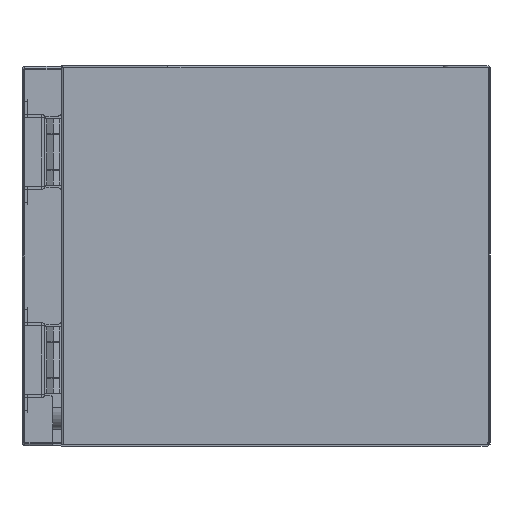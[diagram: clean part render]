
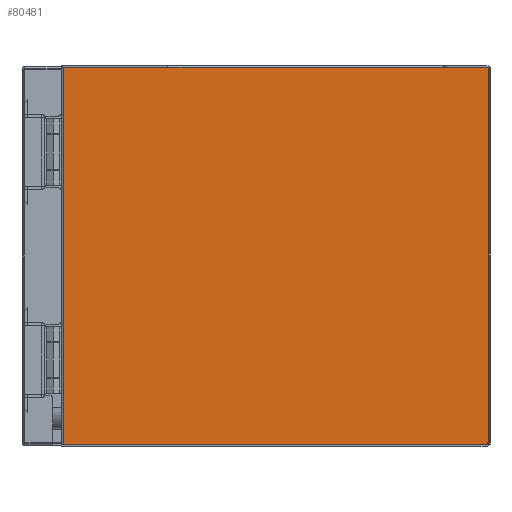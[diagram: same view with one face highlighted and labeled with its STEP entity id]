
A CAD part, left-side view. The second image highlights one B-rep face of the part: STEP entity #80481.
In plain terms, the highlighted planar face has unit normal (-1, 0, 0).
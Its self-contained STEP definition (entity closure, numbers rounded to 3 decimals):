
#1700 = LINE ( 'NONE', #20618, #14035 ) ;
#7553 = DIRECTION ( 'NONE',  ( 0., 0., 1. ) ) ;
#7674 = ORIENTED_EDGE ( 'NONE', *, *, #76464, .T. ) ;
#11508 = CARTESIAN_POINT ( 'NONE',  ( -290., 0., 113.15 ) ) ;
#12356 = VECTOR ( 'NONE', #71615, 1000. ) ;
#14035 = VECTOR ( 'NONE', #55524, 1000. ) ;
#16597 = CARTESIAN_POINT ( 'NONE',  ( -290., 256.3, -113.15 ) ) ;
#19712 = ORIENTED_EDGE ( 'NONE', *, *, #46579, .T. ) ;
#20618 = CARTESIAN_POINT ( 'NONE',  ( -290., 256.3, -113.15 ) ) ;
#23308 = LINE ( 'NONE', #49955, #30607 ) ;
#28933 = EDGE_CURVE ( 'NONE', #97068, #63341, #50194, .T. ) ;
#28962 = DIRECTION ( 'NONE',  ( 0., 1., 0. ) ) ;
#30607 = VECTOR ( 'NONE', #85490, 1000. ) ;
#31221 = CARTESIAN_POINT ( 'NONE',  ( -290., 256.3, 113.15 ) ) ;
#34718 = VECTOR ( 'NONE', #28962, 1000. ) ;
#46051 = CARTESIAN_POINT ( 'NONE',  ( -290., 193.5, 113.15 ) ) ;
#46579 = EDGE_CURVE ( 'NONE', #89187, #107964, #63344, .T. ) ;
#47596 = DIRECTION ( 'NONE',  ( -1., 0., 0. ) ) ;
#49955 = CARTESIAN_POINT ( 'NONE',  ( -290., 1.2, 113.15 ) ) ;
#50194 = LINE ( 'NONE', #88622, #96032 ) ;
#52707 = ORIENTED_EDGE ( 'NONE', *, *, #87019, .T. ) ;
#53096 = LINE ( 'NONE', #108711, #100331 ) ;
#54441 = LINE ( 'NONE', #16597, #12356 ) ;
#55524 = DIRECTION ( 'NONE',  ( 0., -1., 0. ) ) ;
#63341 = VERTEX_POINT ( 'NONE', #88540 ) ;
#63344 = LINE ( 'NONE', #101795, #34718 ) ;
#63629 = CARTESIAN_POINT ( 'NONE',  ( -290., 27.7, 113.15 ) ) ;
#65389 = FACE_OUTER_BOUND ( 'NONE', #93287, .T. ) ;
#71615 = DIRECTION ( 'NONE',  ( 0., 0., 1. ) ) ;
#75452 = DIRECTION ( 'NONE',  ( 0., 0., 1. ) ) ;
#76464 = EDGE_CURVE ( 'NONE', #87560, #97068, #1700, .T. ) ;
#78210 = CARTESIAN_POINT ( 'NONE',  ( -290., 256.3, -113.15 ) ) ;
#78691 = AXIS2_PLACEMENT_3D ( 'NONE', #11508, #47596, #75452 ) ;
#80481 = ADVANCED_FACE ( 'NONE', ( #65389 ), #101494, .T. ) ;
#81514 = DIRECTION ( 'NONE',  ( 0., -1., 0. ) ) ;
#85490 = DIRECTION ( 'NONE',  ( 0., 1., 0. ) ) ;
#87019 = EDGE_CURVE ( 'NONE', #63341, #100803, #23308, .T. ) ;
#87560 = VERTEX_POINT ( 'NONE', #78210 ) ;
#88540 = CARTESIAN_POINT ( 'NONE',  ( -290., 1.2, 113.15 ) ) ;
#88622 = CARTESIAN_POINT ( 'NONE',  ( -290., 1.2, -113.15 ) ) ;
#89187 = VERTEX_POINT ( 'NONE', #46051 ) ;
#93287 = EDGE_LOOP ( 'NONE', ( #106051, #19712, #109146, #7674, #102766, #52707 ) ) ;
#96032 = VECTOR ( 'NONE', #7553, 1000. ) ;
#97068 = VERTEX_POINT ( 'NONE', #115595 ) ;
#100331 = VECTOR ( 'NONE', #81514, 1000. ) ;
#100462 = EDGE_CURVE ( 'NONE', #89187, #100803, #53096, .T. ) ;
#100803 = VERTEX_POINT ( 'NONE', #63629 ) ;
#101494 = PLANE ( 'NONE',  #78691 ) ;
#101795 = CARTESIAN_POINT ( 'NONE',  ( -290., 193.5, 113.15 ) ) ;
#102766 = ORIENTED_EDGE ( 'NONE', *, *, #28933, .T. ) ;
#106051 = ORIENTED_EDGE ( 'NONE', *, *, #100462, .F. ) ;
#107403 = EDGE_CURVE ( 'NONE', #87560, #107964, #54441, .T. ) ;
#107964 = VERTEX_POINT ( 'NONE', #31221 ) ;
#108711 = CARTESIAN_POINT ( 'NONE',  ( -290., 193.5, 113.15 ) ) ;
#109146 = ORIENTED_EDGE ( 'NONE', *, *, #107403, .F. ) ;
#115595 = CARTESIAN_POINT ( 'NONE',  ( -290., 1.2, -113.15 ) ) ;
